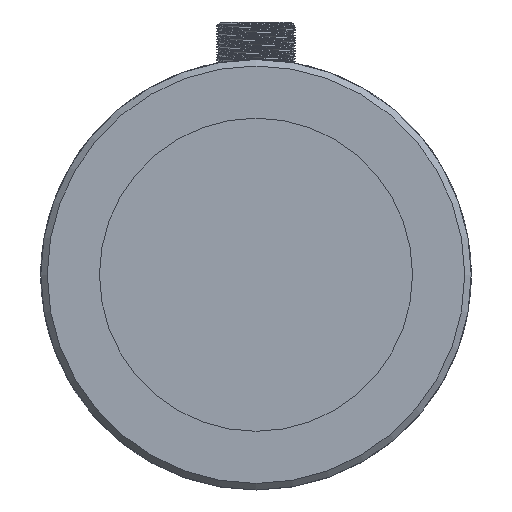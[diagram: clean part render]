
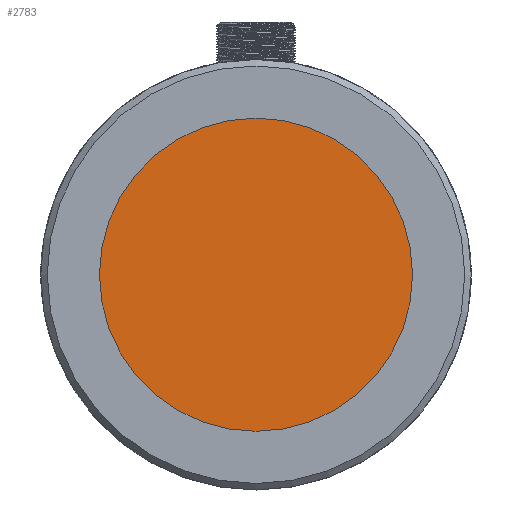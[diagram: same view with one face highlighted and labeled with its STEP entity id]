
A CAD part, left-side view. The second image highlights one B-rep face of the part: STEP entity #2783.
In plain terms, the highlighted planar face has unit normal (-1, 0, 0).
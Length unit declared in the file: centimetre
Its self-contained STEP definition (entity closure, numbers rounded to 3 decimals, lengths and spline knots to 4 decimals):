
#972=PLANE('',#2953);
#1076=VERTEX_POINT('',#3183);
#1286=CIRCLE('',#2951,2.4);
#1382=EDGE_CURVE('',#1076,#1076,#1286,.T.);
#1736=ORIENTED_EDGE('',*,*,#1382,.T.);
#2375=EDGE_LOOP('',(#1736));
#2582=FACE_BOUND('',#2375,.T.);
#2783=ADVANCED_FACE('',(#2582),#972,.T.);
#2951=AXIS2_PLACEMENT_3D('',#3182,#14651,#14652);
#2953=AXIS2_PLACEMENT_3D('',#3186,#14655,$);
#3182=CARTESIAN_POINT('',(0.1,0.,0.));
#3183=CARTESIAN_POINT('',(0.1,0.,2.4));
#3186=CARTESIAN_POINT('',(0.1,0.,0.));
#14651=DIRECTION('',(-1.,0.,0.));
#14652=DIRECTION('',(0.,0.,2.4));
#14655=DIRECTION('',(-1.,0.,0.));
